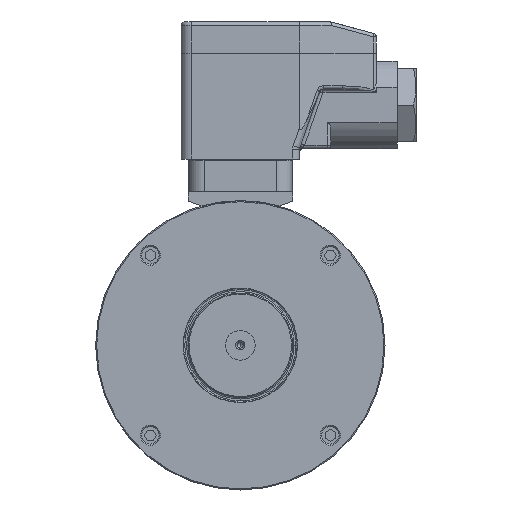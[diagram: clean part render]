
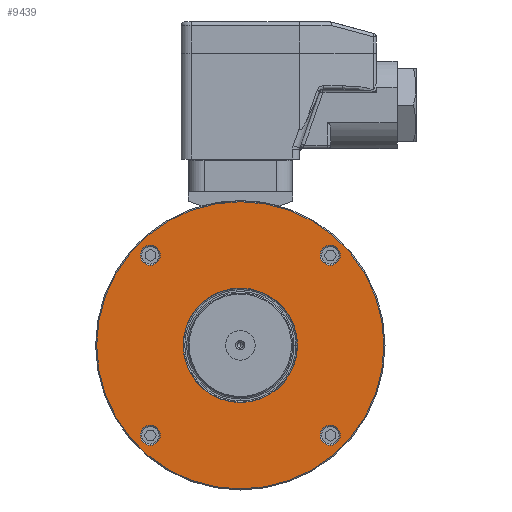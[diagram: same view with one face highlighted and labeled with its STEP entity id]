
A CAD part, left-side view. The second image highlights one B-rep face of the part: STEP entity #9439.
In plain terms, the highlighted planar face has unit normal (-1, 0, 0).
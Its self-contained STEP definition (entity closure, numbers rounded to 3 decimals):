
#520 = DIRECTION ( 'NONE',  ( 0., -1., 0. ) ) ;
#521 = DIRECTION ( 'NONE',  ( 1., 0., 0. ) ) ;
#555 = CARTESIAN_POINT ( 'NONE',  ( -132., 25.809, 25.809 ) ) ;
#562 = AXIS2_PLACEMENT_3D ( 'NONE', #555, #521, #520 ) ;
#611 = CIRCLE ( 'NONE', #562, 2.85 ) ;
#1706 = CARTESIAN_POINT ( 'NONE',  ( -132., 25.809, 28.659 ) ) ;
#2325 = EDGE_CURVE ( 'NONE', #5033, #12018, #611, .T. ) ;
#5033 = VERTEX_POINT ( 'NONE', #1706 ) ;
#5487 = DIRECTION ( 'NONE',  ( 1., 0., 0. ) ) ;
#5488 = CARTESIAN_POINT ( 'NONE',  ( -132., 25.809, -25.809 ) ) ;
#5495 = DIRECTION ( 'NONE',  ( 0., -1., 0. ) ) ;
#5898 = CIRCLE ( 'NONE', #5901, 2.85 ) ;
#5901 = AXIS2_PLACEMENT_3D ( 'NONE', #5488, #5487, #5495 ) ;
#7293 = CARTESIAN_POINT ( 'NONE',  ( -132., 25.809, 22.959 ) ) ;
#8009 = VERTEX_POINT ( 'NONE', #19790 ) ;
#8111 = VERTEX_POINT ( 'NONE', #19722 ) ;
#8214 = VERTEX_POINT ( 'NONE', #19898 ) ;
#8215 = EDGE_CURVE ( 'NONE', #8214, #8111, #19890, .T. ) ;
#8225 = EDGE_CURVE ( 'NONE', #8009, #8226, #19946, .T. ) ;
#8226 = VERTEX_POINT ( 'NONE', #19938 ) ;
#9211 = EDGE_LOOP ( 'NONE', ( #9215, #9361 ) ) ;
#9212 = EDGE_CURVE ( 'NONE', #8111, #8214, #20445, .T. ) ;
#9215 = ORIENTED_EDGE ( 'NONE', *, *, #8215, .T. ) ;
#9216 = EDGE_CURVE ( 'NONE', #12018, #5033, #20447, .T. ) ;
#9217 = ORIENTED_EDGE ( 'NONE', *, *, #9231, .F. ) ;
#9218 = EDGE_CURVE ( 'NONE', #25986, #11542, #20522, .T. ) ;
#9220 = ORIENTED_EDGE ( 'NONE', *, *, #9218, .T. ) ;
#9231 = EDGE_CURVE ( 'NONE', #8226, #8009, #20448, .T. ) ;
#9237 = ORIENTED_EDGE ( 'NONE', *, *, #9389, .T. ) ;
#9242 = ORIENTED_EDGE ( 'NONE', *, *, #9446, .T. ) ;
#9357 = EDGE_LOOP ( 'NONE', ( #9359, #9217 ) ) ;
#9359 = ORIENTED_EDGE ( 'NONE', *, *, #8225, .F. ) ;
#9361 = ORIENTED_EDGE ( 'NONE', *, *, #9212, .T. ) ;
#9363 = ORIENTED_EDGE ( 'NONE', *, *, #11892, .T. ) ;
#9374 = EDGE_LOOP ( 'NONE', ( #9363, #9220 ) ) ;
#9380 = ORIENTED_EDGE ( 'NONE', *, *, #2325, .T. ) ;
#9382 = EDGE_LOOP ( 'NONE', ( #9380, #9390 ) ) ;
#9389 = EDGE_CURVE ( 'NONE', #11536, #11506, #20653, .T. ) ;
#9390 = ORIENTED_EDGE ( 'NONE', *, *, #9216, .T. ) ;
#9420 = EDGE_LOOP ( 'NONE', ( #9440, #9242 ) ) ;
#9422 = ORIENTED_EDGE ( 'NONE', *, *, #11502, .T. ) ;
#9439 = ADVANCED_FACE ( 'NONE', ( #20599, #20745, #20602, #20595, #20593, #20600 ), #20739, .T. ) ;
#9440 = ORIENTED_EDGE ( 'NONE', *, *, #24844, .T. ) ;
#9446 = EDGE_CURVE ( 'NONE', #24846, #24843, #20725, .T. ) ;
#9447 = EDGE_LOOP ( 'NONE', ( #9422, #9237 ) ) ;
#11502 = EDGE_CURVE ( 'NONE', #11506, #11536, #23094, .T. ) ;
#11506 = VERTEX_POINT ( 'NONE', #23269 ) ;
#11536 = VERTEX_POINT ( 'NONE', #23236 ) ;
#11542 = VERTEX_POINT ( 'NONE', #23265 ) ;
#11892 = EDGE_CURVE ( 'NONE', #11542, #25986, #5898, .T. ) ;
#12018 = VERTEX_POINT ( 'NONE', #7293 ) ;
#14589 = CARTESIAN_POINT ( 'NONE',  ( -132., -25.809, 22.959 ) ) ;
#14594 = DIRECTION ( 'NONE',  ( 0., -1., 0. ) ) ;
#14595 = DIRECTION ( 'NONE',  ( 1., 0., 0. ) ) ;
#14599 = AXIS2_PLACEMENT_3D ( 'NONE', #14688, #14595, #14594 ) ;
#14609 = CIRCLE ( 'NONE', #14599, 2.85 ) ;
#14613 = CARTESIAN_POINT ( 'NONE',  ( -132., -25.809, 28.659 ) ) ;
#14688 = CARTESIAN_POINT ( 'NONE',  ( -132., -25.809, 25.809 ) ) ;
#16505 = CARTESIAN_POINT ( 'NONE',  ( -132., 25.809, -28.659 ) ) ;
#19722 = CARTESIAN_POINT ( 'NONE',  ( -132., -16.4, 0. ) ) ;
#19790 = CARTESIAN_POINT ( 'NONE',  ( -132., -41.2, 0. ) ) ;
#19885 = CARTESIAN_POINT ( 'NONE',  ( -132., 0., 0. ) ) ;
#19890 = CIRCLE ( 'NONE', #19952, 16.4 ) ;
#19898 = CARTESIAN_POINT ( 'NONE',  ( -132., 16.4, 0. ) ) ;
#19936 = DIRECTION ( 'NONE',  ( 0., 1., 0. ) ) ;
#19937 = DIRECTION ( 'NONE',  ( 1., 0., 0. ) ) ;
#19938 = CARTESIAN_POINT ( 'NONE',  ( -132., 41.2, 0. ) ) ;
#19946 = CIRCLE ( 'NONE', #19947, 41.2 ) ;
#19947 = AXIS2_PLACEMENT_3D ( 'NONE', #19885, #19937, #19936 ) ;
#19949 = DIRECTION ( 'NONE',  ( 0., 1., 0. ) ) ;
#19950 = DIRECTION ( 'NONE',  ( 1., 0., 0. ) ) ;
#19951 = CARTESIAN_POINT ( 'NONE',  ( -132., 0., 0. ) ) ;
#19952 = AXIS2_PLACEMENT_3D ( 'NONE', #19951, #19950, #19949 ) ;
#20434 = CARTESIAN_POINT ( 'NONE',  ( -132., 0., 0. ) ) ;
#20435 = AXIS2_PLACEMENT_3D ( 'NONE', #20439, #20519, #20518 ) ;
#20439 = CARTESIAN_POINT ( 'NONE',  ( -132., 25.809, 25.809 ) ) ;
#20440 = AXIS2_PLACEMENT_3D ( 'NONE', #20434, #20525, #20524 ) ;
#20445 = CIRCLE ( 'NONE', #20440, 16.4 ) ;
#20447 = CIRCLE ( 'NONE', #20435, 2.85 ) ;
#20448 = CIRCLE ( 'NONE', #20498, 41.2 ) ;
#20497 = DIRECTION ( 'NONE',  ( 0., 1., 0. ) ) ;
#20498 = AXIS2_PLACEMENT_3D ( 'NONE', #20500, #20502, #20497 ) ;
#20500 = CARTESIAN_POINT ( 'NONE',  ( -132., 0., 0. ) ) ;
#20502 = DIRECTION ( 'NONE',  ( 1., 0., 0. ) ) ;
#20511 = DIRECTION ( 'NONE',  ( 0., -1., 0. ) ) ;
#20512 = DIRECTION ( 'NONE',  ( 1., 0., 0. ) ) ;
#20513 = AXIS2_PLACEMENT_3D ( 'NONE', #20520, #20512, #20511 ) ;
#20518 = DIRECTION ( 'NONE',  ( 0., -1., 0. ) ) ;
#20519 = DIRECTION ( 'NONE',  ( 1., 0., 0. ) ) ;
#20520 = CARTESIAN_POINT ( 'NONE',  ( -132., 25.809, -25.809 ) ) ;
#20522 = CIRCLE ( 'NONE', #20513, 2.85 ) ;
#20524 = DIRECTION ( 'NONE',  ( 0., 1., 0. ) ) ;
#20525 = DIRECTION ( 'NONE',  ( 1., 0., 0. ) ) ;
#20535 = DIRECTION ( 'NONE',  ( 0., -1., 0. ) ) ;
#20536 = DIRECTION ( 'NONE',  ( 1., 0., 0. ) ) ;
#20537 = CARTESIAN_POINT ( 'NONE',  ( -132., -25.809, -25.809 ) ) ;
#20538 = AXIS2_PLACEMENT_3D ( 'NONE', #20537, #20536, #20535 ) ;
#20551 = DIRECTION ( 'NONE',  ( -1., 0., 0. ) ) ;
#20590 = DIRECTION ( 'NONE',  ( 0., 1., 0. ) ) ;
#20592 = CARTESIAN_POINT ( 'NONE',  ( -132., -25.809, 25.809 ) ) ;
#20593 = FACE_OUTER_BOUND ( 'NONE', #9357, .T. ) ;
#20594 = CARTESIAN_POINT ( 'NONE',  ( -132., 16.4, 0. ) ) ;
#20595 = FACE_BOUND ( 'NONE', #9382, .T. ) ;
#20599 = FACE_BOUND ( 'NONE', #9420, .T. ) ;
#20600 = FACE_BOUND ( 'NONE', #9211, .T. ) ;
#20601 = DIRECTION ( 'NONE',  ( 1., 0., 0. ) ) ;
#20602 = FACE_BOUND ( 'NONE', #9374, .T. ) ;
#20603 = AXIS2_PLACEMENT_3D ( 'NONE', #20594, #20551, #20590 ) ;
#20653 = CIRCLE ( 'NONE', #20538, 2.85 ) ;
#20723 = DIRECTION ( 'NONE',  ( 0., -1., 0. ) ) ;
#20724 = AXIS2_PLACEMENT_3D ( 'NONE', #20592, #20601, #20723 ) ;
#20725 = CIRCLE ( 'NONE', #20724, 2.85 ) ;
#20739 = PLANE ( 'NONE',  #20603 ) ;
#20745 = FACE_BOUND ( 'NONE', #9447, .T. ) ;
#23076 = DIRECTION ( 'NONE',  ( 0., -1., 0. ) ) ;
#23077 = DIRECTION ( 'NONE',  ( 1., 0., 0. ) ) ;
#23078 = CARTESIAN_POINT ( 'NONE',  ( -132., -25.809, -25.809 ) ) ;
#23094 = CIRCLE ( 'NONE', #23110, 2.85 ) ;
#23110 = AXIS2_PLACEMENT_3D ( 'NONE', #23078, #23077, #23076 ) ;
#23236 = CARTESIAN_POINT ( 'NONE',  ( -132., -25.809, -28.659 ) ) ;
#23265 = CARTESIAN_POINT ( 'NONE',  ( -132., 25.809, -22.959 ) ) ;
#23269 = CARTESIAN_POINT ( 'NONE',  ( -132., -25.809, -22.959 ) ) ;
#24843 = VERTEX_POINT ( 'NONE', #14613 ) ;
#24844 = EDGE_CURVE ( 'NONE', #24843, #24846, #14609, .T. ) ;
#24846 = VERTEX_POINT ( 'NONE', #14589 ) ;
#25986 = VERTEX_POINT ( 'NONE', #16505 ) ;
